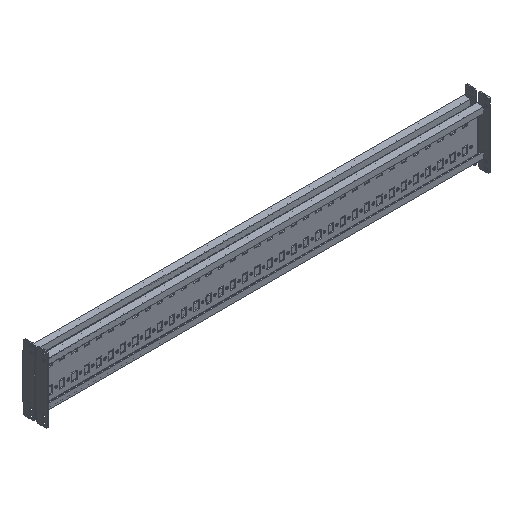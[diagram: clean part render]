
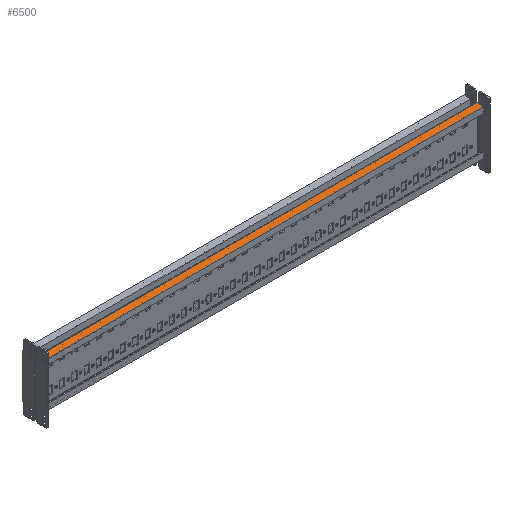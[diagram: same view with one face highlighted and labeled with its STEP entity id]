
A CAD part, isometric view. The second image highlights one B-rep face of the part: STEP entity #6500.
In plain terms, the highlighted planar face has unit normal (0, 0, 1).
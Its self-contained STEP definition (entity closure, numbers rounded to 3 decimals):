
#45 = EDGE_CURVE ( 'NONE', #7624, #10025, #6909, .T. ) ;
#113 = VECTOR ( 'NONE', #1884, 1000. ) ;
#166 = ORIENTED_EDGE ( 'NONE', *, *, #6723, .T. ) ;
#177 = LINE ( 'NONE', #10436, #4119 ) ;
#521 = CARTESIAN_POINT ( 'NONE',  ( 451.5, -3., 46. ) ) ;
#552 = CARTESIAN_POINT ( 'NONE',  ( 453.5, 0., 46. ) ) ;
#861 = AXIS2_PLACEMENT_3D ( 'NONE', #12667, #6152, #7337 ) ;
#1224 = CARTESIAN_POINT ( 'NONE',  ( -453.5, 0., 46. ) ) ;
#1884 = DIRECTION ( 'NONE',  ( -1., 0., 0. ) ) ;
#2150 = FACE_OUTER_BOUND ( 'NONE', #7932, .T. ) ;
#2391 = VERTEX_POINT ( 'NONE', #13903 ) ;
#2482 = ORIENTED_EDGE ( 'NONE', *, *, #14621, .F. ) ;
#2562 = DIRECTION ( 'NONE',  ( 1., 0., 0. ) ) ;
#3086 = LINE ( 'NONE', #1224, #11383 ) ;
#3260 = CARTESIAN_POINT ( 'NONE',  ( 451.5, -3., 46. ) ) ;
#3572 = CARTESIAN_POINT ( 'NONE',  ( -453.5, 0., 46. ) ) ;
#4119 = VECTOR ( 'NONE', #15631, 1000. ) ;
#4511 = DIRECTION ( 'NONE',  ( 1., 0., 0. ) ) ;
#5621 = CARTESIAN_POINT ( 'NONE',  ( 453.5, -3., 46. ) ) ;
#5907 = VERTEX_POINT ( 'NONE', #7885 ) ;
#6152 = DIRECTION ( 'NONE',  ( 0., 0., -1. ) ) ;
#6500 = ADVANCED_FACE ( 'NONE', ( #2150 ), #9863, .F. ) ;
#6653 = LINE ( 'NONE', #12918, #13184 ) ;
#6723 = EDGE_CURVE ( 'NONE', #5907, #9894, #6653, .T. ) ;
#6864 = ORIENTED_EDGE ( 'NONE', *, *, #7385, .F. ) ;
#6909 = LINE ( 'NONE', #521, #113 ) ;
#6979 = ORIENTED_EDGE ( 'NONE', *, *, #12305, .F. ) ;
#7159 = CARTESIAN_POINT ( 'NONE',  ( -451.5, -3., 46. ) ) ;
#7337 = DIRECTION ( 'NONE',  ( 0., -1., 0. ) ) ;
#7385 = EDGE_CURVE ( 'NONE', #13090, #7624, #8662, .T. ) ;
#7509 = ORIENTED_EDGE ( 'NONE', *, *, #8491, .T. ) ;
#7518 = LINE ( 'NONE', #7159, #13172 ) ;
#7624 = VERTEX_POINT ( 'NONE', #5621 ) ;
#7885 = CARTESIAN_POINT ( 'NONE',  ( -451.5, -14., 46. ) ) ;
#7932 = EDGE_LOOP ( 'NONE', ( #8542, #13916, #6864, #6979, #7509, #2482, #15758, #166 ) ) ;
#8400 = CARTESIAN_POINT ( 'NONE',  ( -471.939, 0., 46. ) ) ;
#8491 = EDGE_CURVE ( 'NONE', #12404, #2391, #3086, .T. ) ;
#8542 = ORIENTED_EDGE ( 'NONE', *, *, #15558, .F. ) ;
#8662 = LINE ( 'NONE', #16395, #13277 ) ;
#9026 = CARTESIAN_POINT ( 'NONE',  ( 451.5, -14., 46. ) ) ;
#9574 = VERTEX_POINT ( 'NONE', #13381 ) ;
#9863 = PLANE ( 'NONE',  #861 ) ;
#9894 = VERTEX_POINT ( 'NONE', #9026 ) ;
#10025 = VERTEX_POINT ( 'NONE', #3260 ) ;
#10436 = CARTESIAN_POINT ( 'NONE',  ( -451.5, 0., 46. ) ) ;
#10437 = VECTOR ( 'NONE', #14752, 1000. ) ;
#11015 = EDGE_CURVE ( 'NONE', #5907, #9574, #177, .T. ) ;
#11383 = VECTOR ( 'NONE', #13342, 1000. ) ;
#11883 = VECTOR ( 'NONE', #4511, 1000. ) ;
#12305 = EDGE_CURVE ( 'NONE', #12404, #13090, #13403, .T. ) ;
#12404 = VERTEX_POINT ( 'NONE', #3572 ) ;
#12667 = CARTESIAN_POINT ( 'NONE',  ( 0., 0., 46. ) ) ;
#12918 = CARTESIAN_POINT ( 'NONE',  ( -471.939, -14., 46. ) ) ;
#13090 = VERTEX_POINT ( 'NONE', #552 ) ;
#13159 = CARTESIAN_POINT ( 'NONE',  ( 451.5, 0., 46. ) ) ;
#13172 = VECTOR ( 'NONE', #13586, 1000. ) ;
#13184 = VECTOR ( 'NONE', #2562, 1000. ) ;
#13277 = VECTOR ( 'NONE', #16240, 1000. ) ;
#13342 = DIRECTION ( 'NONE',  ( 0., -1., 0. ) ) ;
#13381 = CARTESIAN_POINT ( 'NONE',  ( -451.5, -3., 46. ) ) ;
#13403 = LINE ( 'NONE', #8400, #11883 ) ;
#13554 = LINE ( 'NONE', #13159, #10437 ) ;
#13586 = DIRECTION ( 'NONE',  ( -1., 0., 0. ) ) ;
#13903 = CARTESIAN_POINT ( 'NONE',  ( -453.5, -3., 46. ) ) ;
#13916 = ORIENTED_EDGE ( 'NONE', *, *, #45, .F. ) ;
#14621 = EDGE_CURVE ( 'NONE', #9574, #2391, #7518, .T. ) ;
#14752 = DIRECTION ( 'NONE',  ( 0., -1., 0. ) ) ;
#15558 = EDGE_CURVE ( 'NONE', #10025, #9894, #13554, .T. ) ;
#15631 = DIRECTION ( 'NONE',  ( 0., 1., 0. ) ) ;
#15758 = ORIENTED_EDGE ( 'NONE', *, *, #11015, .F. ) ;
#16240 = DIRECTION ( 'NONE',  ( 0., -1., 0. ) ) ;
#16395 = CARTESIAN_POINT ( 'NONE',  ( 453.5, 0., 46. ) ) ;
